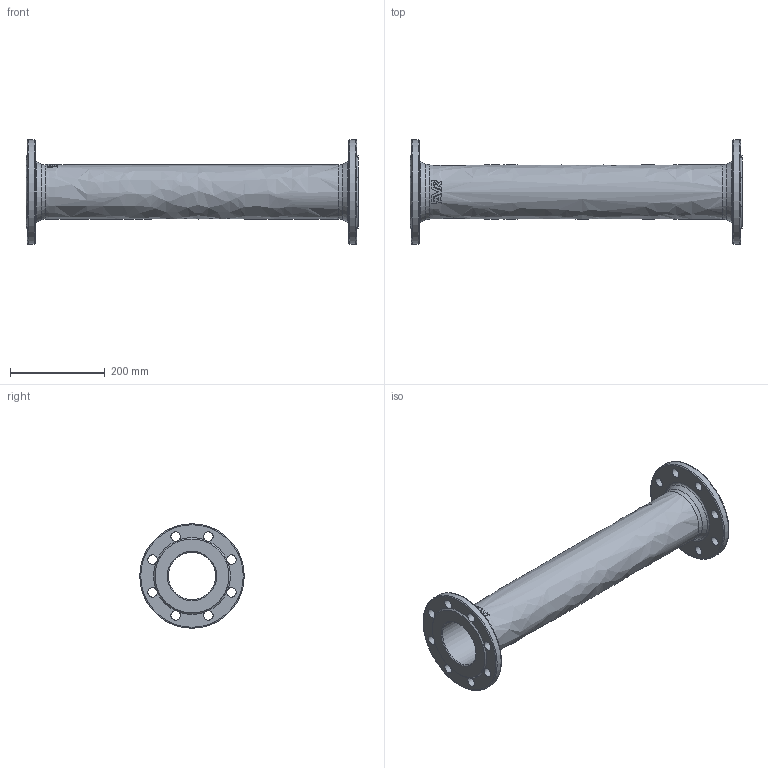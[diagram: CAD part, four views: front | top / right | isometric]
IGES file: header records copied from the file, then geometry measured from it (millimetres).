
Start section: SolidWorks IGES file using analytic representation for surfaces
Global section: file name: \\avksan2\techshare\PBM outline export from Enovia\O_712_5010_DN100_1X_REV01.igs; native system: SolidWorks 2019; preprocessor: SolidWorks 2019; author: pbm; date: 211203.103148; units: millimetre
Bounding box: 700 x 220 x 220 mm (x, y, z)
Surface area: 595238.9 mm2 (no closed solid volume)
Topology: 0 solids, 0 shells, 81 faces, 509 edges, 474 vertices
Faces by surface type: bspline 43, revolution 38
